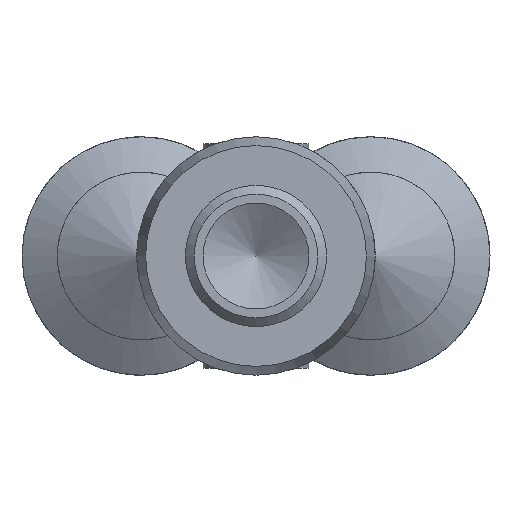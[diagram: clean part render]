
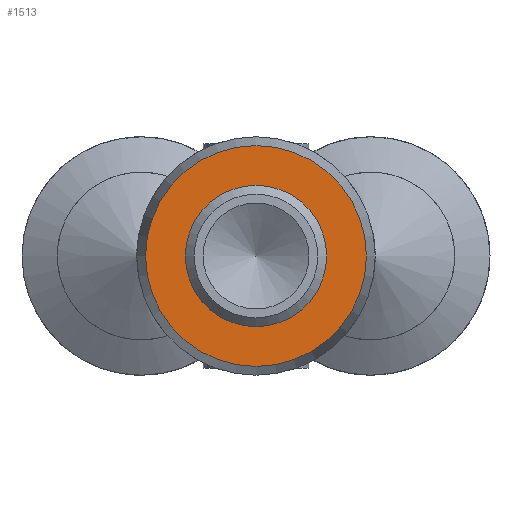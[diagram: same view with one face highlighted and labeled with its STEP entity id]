
A CAD part, left-side view. The second image highlights one B-rep face of the part: STEP entity #1513.
In plain terms, the highlighted planar face has unit normal (-1, 0, 0).
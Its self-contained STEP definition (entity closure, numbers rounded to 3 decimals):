
#304=CARTESIAN_POINT('',(-14.35,4.0,0.0));
#305=VERTEX_POINT('',#304);
#306=CARTESIAN_POINT('',(-14.35,0.0,0.0));
#307=DIRECTION('',(1.0,0.0,0.0));
#308=DIRECTION('',(0.0,1.0,0.0));
#309=AXIS2_PLACEMENT_3D('',#306,#307,#308);
#310=CIRCLE('',#309,4.0);
#311=EDGE_CURVE('',#305,#305,#310,.T.);
#1487=CARTESIAN_POINT('',(-14.35,-6.25,0.0));
#1488=VERTEX_POINT('',#1487);
#1489=CARTESIAN_POINT('',(-14.35,0.,0.0));
#1490=DIRECTION('',(-1.0,0.0,0.0));
#1491=DIRECTION('',(0.0,-1.0,0.0));
#1492=AXIS2_PLACEMENT_3D('',#1489,#1490,#1491);
#1493=CIRCLE('',#1492,6.25);
#1494=EDGE_CURVE('',#1488,#1488,#1493,.T.);
#1502=CARTESIAN_POINT('',(-14.35,-5.125,0.0));
#1503=DIRECTION('',(-1.0,0.0,0.0));
#1504=DIRECTION('',(0.0,0.0,-1.0));
#1505=AXIS2_PLACEMENT_3D('',#1502,#1503,#1504);
#1506=PLANE('',#1505);
#1507=ORIENTED_EDGE('',*,*,#1494,.T.);
#1508=EDGE_LOOP('',(#1507));
#1509=FACE_OUTER_BOUND('',#1508,.T.);
#1510=ORIENTED_EDGE('',*,*,#311,.T.);
#1511=EDGE_LOOP('',(#1510));
#1512=FACE_BOUND('',#1511,.T.);
#1513=ADVANCED_FACE('',(#1509,#1512),#1506,.T.);
